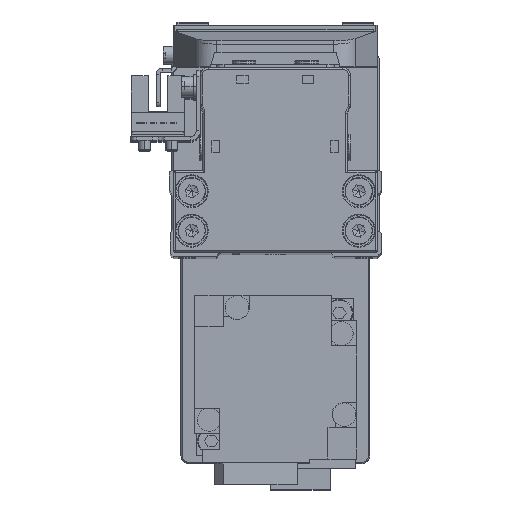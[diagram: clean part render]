
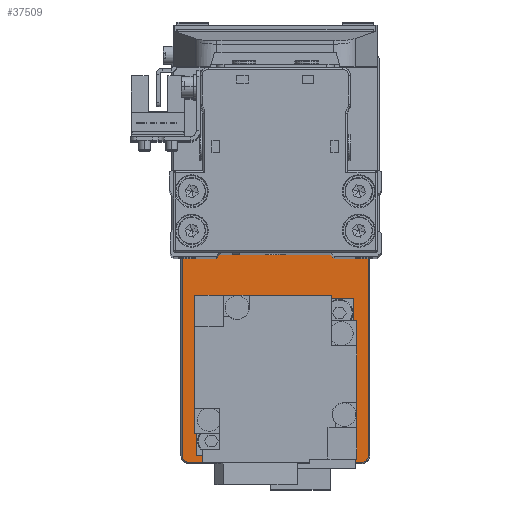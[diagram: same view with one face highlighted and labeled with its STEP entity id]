
A CAD part, top view. The second image highlights one B-rep face of the part: STEP entity #37509.
In plain terms, the highlighted planar face has unit normal (0, 0, 1).
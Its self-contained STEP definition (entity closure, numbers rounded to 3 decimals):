
#121 = EDGE_CURVE ( 'NONE', #19855, #35339, #17858, .T. ) ;
#470 = PLANE ( 'NONE',  #8035 ) ;
#487 = VECTOR ( 'NONE', #28581, 1000. ) ;
#517 = DIRECTION ( 'NONE',  ( 0., 0., 1. ) ) ;
#536 = AXIS2_PLACEMENT_3D ( 'NONE', #27101, #39351, #11810 ) ;
#561 = EDGE_LOOP ( 'NONE', ( #33058, #23559, #6432, #29487, #27681, #26184, #31746, #7931 ) ) ;
#639 = DIRECTION ( 'NONE',  ( 1., 0., 0. ) ) ;
#1595 = ORIENTED_EDGE ( 'NONE', *, *, #38520, .T. ) ;
#2622 = DIRECTION ( 'NONE',  ( 0., -1., 0. ) ) ;
#2816 = DIRECTION ( 'NONE',  ( 1., 0., 0. ) ) ;
#3485 = FACE_BOUND ( 'NONE', #11619, .T. ) ;
#3573 = CARTESIAN_POINT ( 'NONE',  ( -38.3, 0., 5. ) ) ;
#4012 = LINE ( 'NONE', #16304, #487 ) ;
#4252 = CIRCLE ( 'NONE', #26740, 12.8 ) ;
#4746 = CIRCLE ( 'NONE', #27235, 1.7 ) ;
#5200 = AXIS2_PLACEMENT_3D ( 'NONE', #18088, #30374, #2816 ) ;
#5267 = VECTOR ( 'NONE', #36338, 1000. ) ;
#5440 = CIRCLE ( 'NONE', #27949, 1.7 ) ;
#6432 = ORIENTED_EDGE ( 'NONE', *, *, #30678, .T. ) ;
#6546 = AXIS2_PLACEMENT_3D ( 'NONE', #27026, #39270, #11735 ) ;
#6711 = CARTESIAN_POINT ( 'NONE',  ( -50., 23.7, 5. ) ) ;
#7234 = VERTEX_POINT ( 'NONE', #26584 ) ;
#7931 = ORIENTED_EDGE ( 'NONE', *, *, #14168, .T. ) ;
#8011 = AXIS2_PLACEMENT_3D ( 'NONE', #28077, #517, #12764 ) ;
#8035 = AXIS2_PLACEMENT_3D ( 'NONE', #12713, #24993, #37267 ) ;
#9668 = CARTESIAN_POINT ( 'NONE',  ( 30., 0., 5. ) ) ;
#9905 = EDGE_CURVE ( 'NONE', #39271, #21879, #23902, .T. ) ;
#9948 = DIRECTION ( 'NONE',  ( 1., 0., 0. ) ) ;
#10301 = DIRECTION ( 'NONE',  ( 0., 1., 0. ) ) ;
#10483 = AXIS2_PLACEMENT_3D ( 'NONE', #9668, #21959, #34238 ) ;
#11619 = EDGE_LOOP ( 'NONE', ( #1595, #30883 ) ) ;
#11735 = DIRECTION ( 'NONE',  ( 1., 0., 0. ) ) ;
#11797 = LINE ( 'NONE', #24082, #5267 ) ;
#11810 = DIRECTION ( 'NONE',  ( 1., 0., 0. ) ) ;
#12103 = EDGE_LOOP ( 'NONE', ( #34421, #21511 ) ) ;
#12713 = CARTESIAN_POINT ( 'NONE',  ( 0., 0., 5. ) ) ;
#12738 = CARTESIAN_POINT ( 'NONE',  ( -51.7, -22., 5. ) ) ;
#12764 = DIRECTION ( 'NONE',  ( 1., 0., 0. ) ) ;
#13924 = CARTESIAN_POINT ( 'NONE',  ( 17.2, 0., 5. ) ) ;
#14168 = EDGE_CURVE ( 'NONE', #18859, #32965, #25373, .T. ) ;
#15239 = CARTESIAN_POINT ( 'NONE',  ( 50., 22., 5. ) ) ;
#15756 = FACE_BOUND ( 'NONE', #12103, .T. ) ;
#15879 = EDGE_CURVE ( 'NONE', #35339, #19855, #22582, .T. ) ;
#15916 = CARTESIAN_POINT ( 'NONE',  ( 30., 0., 5. ) ) ;
#16304 = CARTESIAN_POINT ( 'NONE',  ( 50., -23.7, 5. ) ) ;
#16947 = CARTESIAN_POINT ( 'NONE',  ( -51.7, 22., 5. ) ) ;
#17372 = VERTEX_POINT ( 'NONE', #32161 ) ;
#17858 = CIRCLE ( 'NONE', #536, 10.3 ) ;
#17904 = LINE ( 'NONE', #30181, #20202 ) ;
#18088 = CARTESIAN_POINT ( 'NONE',  ( -28., 0., 5. ) ) ;
#18859 = VERTEX_POINT ( 'NONE', #12738 ) ;
#19855 = VERTEX_POINT ( 'NONE', #21005 ) ;
#20202 = VECTOR ( 'NONE', #2622, 1000. ) ;
#20935 = EDGE_CURVE ( 'NONE', #32965, #7234, #4012, .T. ) ;
#21005 = CARTESIAN_POINT ( 'NONE',  ( -17.7, 0., 5. ) ) ;
#21511 = ORIENTED_EDGE ( 'NONE', *, *, #15879, .T. ) ;
#21879 = VERTEX_POINT ( 'NONE', #16947 ) ;
#21959 = DIRECTION ( 'NONE',  ( 0., 0., -1. ) ) ;
#22582 = CIRCLE ( 'NONE', #5200, 10.3 ) ;
#23412 = CARTESIAN_POINT ( 'NONE',  ( 42.8, 0., 5. ) ) ;
#23559 = ORIENTED_EDGE ( 'NONE', *, *, #34506, .T. ) ;
#23902 = CIRCLE ( 'NONE', #6546, 1.7 ) ;
#24082 = CARTESIAN_POINT ( 'NONE',  ( -50., 23.7, 5. ) ) ;
#24209 = CARTESIAN_POINT ( 'NONE',  ( 50., 23.7, 5. ) ) ;
#24993 = DIRECTION ( 'NONE',  ( 0., 0., 1. ) ) ;
#25240 = CARTESIAN_POINT ( 'NONE',  ( 50., -22., 5. ) ) ;
#25331 = VECTOR ( 'NONE', #10301, 1000. ) ;
#25373 = CIRCLE ( 'NONE', #8011, 1.7 ) ;
#25595 = LINE ( 'NONE', #37858, #25331 ) ;
#25908 = DIRECTION ( 'NONE',  ( 1., 0., 0. ) ) ;
#26184 = ORIENTED_EDGE ( 'NONE', *, *, #9905, .T. ) ;
#26584 = CARTESIAN_POINT ( 'NONE',  ( 50., -23.7, 5. ) ) ;
#26632 = VERTEX_POINT ( 'NONE', #24209 ) ;
#26740 = AXIS2_PLACEMENT_3D ( 'NONE', #15916, #28197, #639 ) ;
#27026 = CARTESIAN_POINT ( 'NONE',  ( -50., 22., 5. ) ) ;
#27101 = CARTESIAN_POINT ( 'NONE',  ( -28., 0., 5. ) ) ;
#27235 = AXIS2_PLACEMENT_3D ( 'NONE', #25240, #37519, #9948 ) ;
#27377 = CARTESIAN_POINT ( 'NONE',  ( 51.7, 22., 5. ) ) ;
#27524 = DIRECTION ( 'NONE',  ( 0., 0., 1. ) ) ;
#27681 = ORIENTED_EDGE ( 'NONE', *, *, #33039, .T. ) ;
#27831 = CIRCLE ( 'NONE', #10483, 12.8 ) ;
#27949 = AXIS2_PLACEMENT_3D ( 'NONE', #15239, #27524, #25908 ) ;
#28032 = FACE_OUTER_BOUND ( 'NONE', #561, .T. ) ;
#28077 = CARTESIAN_POINT ( 'NONE',  ( -50., -22., 5. ) ) ;
#28197 = DIRECTION ( 'NONE',  ( 0., 0., -1. ) ) ;
#28581 = DIRECTION ( 'NONE',  ( 1., 0., 0. ) ) ;
#29487 = ORIENTED_EDGE ( 'NONE', *, *, #31407, .T. ) ;
#29629 = EDGE_CURVE ( 'NONE', #33855, #34698, #27831, .T. ) ;
#29721 = CARTESIAN_POINT ( 'NONE',  ( -50., -23.7, 5. ) ) ;
#30181 = CARTESIAN_POINT ( 'NONE',  ( -51.7, -22., 5. ) ) ;
#30374 = DIRECTION ( 'NONE',  ( 0., 0., -1. ) ) ;
#30678 = EDGE_CURVE ( 'NONE', #17372, #36555, #25595, .T. ) ;
#30883 = ORIENTED_EDGE ( 'NONE', *, *, #29629, .T. ) ;
#31407 = EDGE_CURVE ( 'NONE', #36555, #26632, #5440, .T. ) ;
#31746 = ORIENTED_EDGE ( 'NONE', *, *, #36496, .T. ) ;
#32161 = CARTESIAN_POINT ( 'NONE',  ( 51.7, -22., 5. ) ) ;
#32965 = VERTEX_POINT ( 'NONE', #29721 ) ;
#33039 = EDGE_CURVE ( 'NONE', #26632, #39271, #11797, .T. ) ;
#33058 = ORIENTED_EDGE ( 'NONE', *, *, #20935, .T. ) ;
#33855 = VERTEX_POINT ( 'NONE', #13924 ) ;
#34238 = DIRECTION ( 'NONE',  ( 1., 0., 0. ) ) ;
#34421 = ORIENTED_EDGE ( 'NONE', *, *, #121, .T. ) ;
#34506 = EDGE_CURVE ( 'NONE', #7234, #17372, #4746, .T. ) ;
#34698 = VERTEX_POINT ( 'NONE', #23412 ) ;
#35339 = VERTEX_POINT ( 'NONE', #3573 ) ;
#36338 = DIRECTION ( 'NONE',  ( -1., 0., 0. ) ) ;
#36496 = EDGE_CURVE ( 'NONE', #21879, #18859, #17904, .T. ) ;
#36555 = VERTEX_POINT ( 'NONE', #27377 ) ;
#37267 = DIRECTION ( 'NONE',  ( 1., 0., 0. ) ) ;
#37509 = ADVANCED_FACE ( 'NONE', ( #3485, #15756, #28032 ), #470, .T. ) ;
#37519 = DIRECTION ( 'NONE',  ( 0., 0., 1. ) ) ;
#37858 = CARTESIAN_POINT ( 'NONE',  ( 51.7, 22., 5. ) ) ;
#38520 = EDGE_CURVE ( 'NONE', #34698, #33855, #4252, .T. ) ;
#39270 = DIRECTION ( 'NONE',  ( 0., 0., 1. ) ) ;
#39271 = VERTEX_POINT ( 'NONE', #6711 ) ;
#39351 = DIRECTION ( 'NONE',  ( 0., 0., -1. ) ) ;
